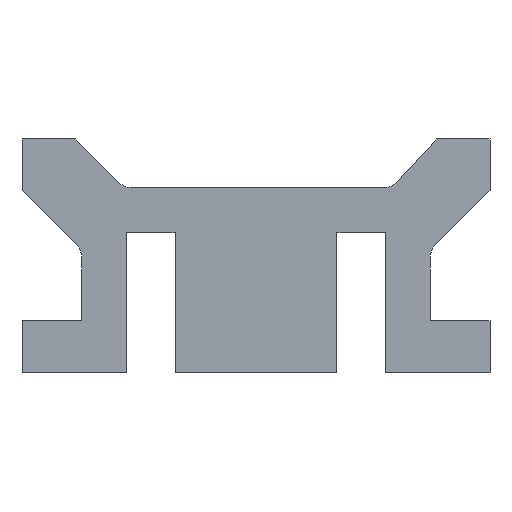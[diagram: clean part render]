
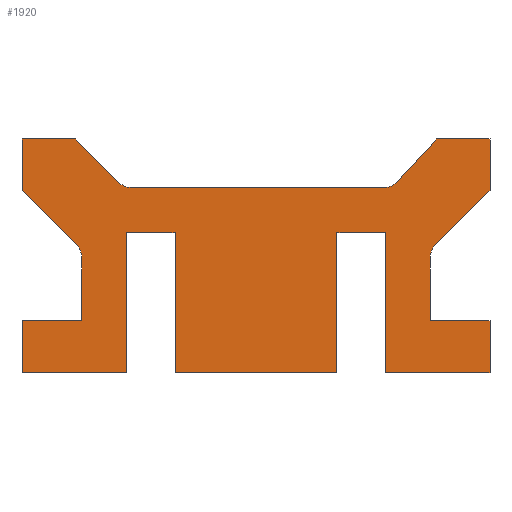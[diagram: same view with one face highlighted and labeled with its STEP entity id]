
A CAD part, front view. The second image highlights one B-rep face of the part: STEP entity #1920.
In plain terms, the highlighted planar face has unit normal (0, -1, 0).
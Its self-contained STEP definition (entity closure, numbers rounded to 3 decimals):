
#1=DIRECTION('',(-0.707,0.,0.707));
#2=VECTOR('',#1,6.525);
#3=CARTESIAN_POINT('',(-14.686,-400.,-4.614));
#4=LINE('',#3,#2);
#5=DIRECTION('',(-1.,0.,0.));
#6=VECTOR('',#5,26.896);
#7=CARTESIAN_POINT('',(13.624,-400.,-5.2));
#8=LINE('',#7,#6);
#9=DIRECTION('',(-0.678,0.,-0.735));
#10=VECTOR('',#9,6.201);
#11=CARTESIAN_POINT('',(19.3,-400.,0.));
#12=LINE('',#11,#10);
#13=DIRECTION('',(1.,0.,0.));
#14=VECTOR('',#13,5.7);
#15=CARTESIAN_POINT('',(19.3,-400.,0.));
#16=LINE('',#15,#14);
#17=DIRECTION('',(0.,0.,-1.));
#18=VECTOR('',#17,5.472);
#19=CARTESIAN_POINT('',(25.,-400.,0.));
#20=LINE('',#19,#18);
#21=DIRECTION('',(0.707,0.,0.707));
#22=VECTOR('',#21,8.223);
#23=CARTESIAN_POINT('',(19.186,-400.,-11.287));
#24=LINE('',#23,#22);
#25=DIRECTION('',(0.,0.,1.));
#26=VECTOR('',#25,6.699);
#27=CARTESIAN_POINT('',(18.6,-400.,-19.4));
#28=LINE('',#27,#26);
#29=DIRECTION('',(-1.,0.,0.));
#30=VECTOR('',#29,6.4);
#31=CARTESIAN_POINT('',(25.,-400.,-19.4));
#32=LINE('',#31,#30);
#33=DIRECTION('',(0.,0.,-1.));
#34=VECTOR('',#33,5.6);
#35=CARTESIAN_POINT('',(25.,-400.,-19.4));
#36=LINE('',#35,#34);
#37=DIRECTION('',(-1.,0.,0.));
#38=VECTOR('',#37,11.15);
#39=CARTESIAN_POINT('',(25.,-400.,-25.));
#40=LINE('',#39,#38);
#41=DIRECTION('',(0.,0.,1.));
#42=VECTOR('',#41,15.);
#43=CARTESIAN_POINT('',(13.85,-400.,-25.));
#44=LINE('',#43,#42);
#45=DIRECTION('',(1.,0.,0.));
#46=VECTOR('',#45,5.2);
#47=CARTESIAN_POINT('',(8.65,-400.,-10.));
#48=LINE('',#47,#46);
#49=DIRECTION('',(0.,0.,1.));
#50=VECTOR('',#49,15.);
#51=CARTESIAN_POINT('',(8.65,-400.,-25.));
#52=LINE('',#51,#50);
#53=DIRECTION('',(-1.,0.,0.));
#54=VECTOR('',#53,17.3);
#55=CARTESIAN_POINT('',(8.65,-400.,-25.));
#56=LINE('',#55,#54);
#57=DIRECTION('',(0.,0.,1.));
#58=VECTOR('',#57,15.);
#59=CARTESIAN_POINT('',(-8.65,-400.,-25.));
#60=LINE('',#59,#58);
#61=DIRECTION('',(1.,0.,0.));
#62=VECTOR('',#61,5.2);
#63=CARTESIAN_POINT('',(-13.85,-400.,-10.));
#64=LINE('',#63,#62);
#65=DIRECTION('',(0.,0.,1.));
#66=VECTOR('',#65,15.);
#67=CARTESIAN_POINT('',(-13.85,-400.,-25.));
#68=LINE('',#67,#66);
#69=DIRECTION('',(-1.,0.,0.));
#70=VECTOR('',#69,11.15);
#71=CARTESIAN_POINT('',(-13.85,-400.,-25.));
#72=LINE('',#71,#70);
#73=DIRECTION('',(0.,0.,1.));
#74=VECTOR('',#73,5.6);
#75=CARTESIAN_POINT('',(-25.,-400.,-25.));
#76=LINE('',#75,#74);
#77=DIRECTION('',(1.,0.,0.));
#78=VECTOR('',#77,6.4);
#79=CARTESIAN_POINT('',(-25.,-400.,-19.4));
#80=LINE('',#79,#78);
#81=DIRECTION('',(0.,0.,-1.));
#82=VECTOR('',#81,6.699);
#83=CARTESIAN_POINT('',(-18.6,-400.,-12.701));
#84=LINE('',#83,#82);
#85=DIRECTION('',(0.707,0.,-0.707));
#86=VECTOR('',#85,8.223);
#87=CARTESIAN_POINT('',(-25.,-400.,-5.472));
#88=LINE('',#87,#86);
#89=DIRECTION('',(0.,0.,1.));
#90=VECTOR('',#89,5.472);
#91=CARTESIAN_POINT('',(-25.,-400.,-5.472));
#92=LINE('',#91,#90);
#93=DIRECTION('',(1.,0.,0.));
#94=VECTOR('',#93,5.7);
#95=CARTESIAN_POINT('',(-25.,-400.,0.));
#96=LINE('',#95,#94);
#106=CARTESIAN_POINT('',(-13.272,-400.,-3.2));
#107=DIRECTION('',(0.,1.,0.));
#108=DIRECTION('',(0.,0.,-1.));
#109=AXIS2_PLACEMENT_3D('',#106,#107,#108);
#362=CARTESIAN_POINT('',(13.624,-400.,-3.2));
#363=DIRECTION('',(0.,1.,0.));
#364=DIRECTION('',(0.735,0.,-0.678));
#365=AXIS2_PLACEMENT_3D('',#362,#363,#364);
#404=CARTESIAN_POINT('',(-20.6,-400.,-12.701));
#405=DIRECTION('',(0.,1.,0.));
#406=DIRECTION('',(0.707,0.,0.707));
#407=AXIS2_PLACEMENT_3D('',#404,#405,#406);
#620=CARTESIAN_POINT('',(20.6,-400.,-12.701));
#621=DIRECTION('',(0.,1.,0.));
#622=DIRECTION('',(-1.,0.,0.));
#623=AXIS2_PLACEMENT_3D('',#620,#621,#622);
#1445=CARTESIAN_POINT('',(-25.,-400.,0.));
#1447=VERTEX_POINT('',#1445);
#1449=CARTESIAN_POINT('',(25.,-400.,0.));
#1451=VERTEX_POINT('',#1449);
#1453=CARTESIAN_POINT('',(25.,-400.,-25.));
#1455=VERTEX_POINT('',#1453);
#1457=CARTESIAN_POINT('',(-25.,-400.,-25.));
#1459=VERTEX_POINT('',#1457);
#1461=CARTESIAN_POINT('',(-13.85,-400.,-25.));
#1462=CARTESIAN_POINT('',(-13.85,-400.,-10.));
#1463=VERTEX_POINT('',#1461);
#1464=VERTEX_POINT('',#1462);
#1465=CARTESIAN_POINT('',(-8.65,-400.,-10.));
#1466=VERTEX_POINT('',#1465);
#1467=CARTESIAN_POINT('',(-8.65,-400.,-25.));
#1468=VERTEX_POINT('',#1467);
#1469=CARTESIAN_POINT('',(-25.,-400.,-19.4));
#1470=CARTESIAN_POINT('',(-18.6,-400.,-19.4));
#1471=VERTEX_POINT('',#1469);
#1472=VERTEX_POINT('',#1470);
#1473=CARTESIAN_POINT('',(8.65,-400.,-25.));
#1474=CARTESIAN_POINT('',(8.65,-400.,-10.));
#1475=VERTEX_POINT('',#1473);
#1476=VERTEX_POINT('',#1474);
#1477=CARTESIAN_POINT('',(13.85,-400.,-10.));
#1478=VERTEX_POINT('',#1477);
#1479=CARTESIAN_POINT('',(13.85,-400.,-25.));
#1480=VERTEX_POINT('',#1479);
#1481=CARTESIAN_POINT('',(25.,-400.,-19.4));
#1482=CARTESIAN_POINT('',(18.6,-400.,-19.4));
#1483=VERTEX_POINT('',#1481);
#1484=VERTEX_POINT('',#1482);
#1509=CARTESIAN_POINT('',(-19.3,-400.,0.));
#1511=VERTEX_POINT('',#1509);
#1513=CARTESIAN_POINT('',(19.3,-400.,0.));
#1515=VERTEX_POINT('',#1513);
#1517=CARTESIAN_POINT('',(25.,-400.,-5.472));
#1519=VERTEX_POINT('',#1517);
#1521=CARTESIAN_POINT('',(-25.,-400.,-5.472));
#1523=VERTEX_POINT('',#1521);
#1562=CARTESIAN_POINT('',(13.624,-400.,-5.2));
#1564=VERTEX_POINT('',#1562);
#1566=CARTESIAN_POINT('',(15.094,-400.,-4.557));
#1568=VERTEX_POINT('',#1566);
#1570=CARTESIAN_POINT('',(-14.686,-400.,-4.614));
#1572=VERTEX_POINT('',#1570);
#1574=CARTESIAN_POINT('',(-13.272,-400.,-5.2));
#1576=VERTEX_POINT('',#1574);
#1578=CARTESIAN_POINT('',(19.186,-400.,-11.287));
#1580=VERTEX_POINT('',#1578);
#1582=CARTESIAN_POINT('',(18.6,-400.,-12.701));
#1584=VERTEX_POINT('',#1582);
#1586=CARTESIAN_POINT('',(-18.6,-400.,-12.701));
#1588=VERTEX_POINT('',#1586);
#1590=CARTESIAN_POINT('',(-19.186,-400.,-11.287));
#1592=VERTEX_POINT('',#1590);
#1857=CARTESIAN_POINT('',(0.,-400.,0.));
#1858=DIRECTION('',(0.,1.,0.));
#1859=DIRECTION('',(1.,0.,0.));
#1860=AXIS2_PLACEMENT_3D('',#1857,#1858,#1859);
#1861=PLANE('',#1860);
#1863=ORIENTED_EDGE('',*,*,#1862,.F.);
#1865=ORIENTED_EDGE('',*,*,#1864,.F.);
#1867=ORIENTED_EDGE('',*,*,#1866,.F.);
#1869=ORIENTED_EDGE('',*,*,#1868,.F.);
#1871=ORIENTED_EDGE('',*,*,#1870,.F.);
#1873=ORIENTED_EDGE('',*,*,#1872,.T.);
#1875=ORIENTED_EDGE('',*,*,#1874,.T.);
#1877=ORIENTED_EDGE('',*,*,#1876,.F.);
#1879=ORIENTED_EDGE('',*,*,#1878,.F.);
#1881=ORIENTED_EDGE('',*,*,#1880,.F.);
#1883=ORIENTED_EDGE('',*,*,#1882,.F.);
#1885=ORIENTED_EDGE('',*,*,#1884,.T.);
#1887=ORIENTED_EDGE('',*,*,#1886,.T.);
#1889=ORIENTED_EDGE('',*,*,#1888,.T.);
#1891=ORIENTED_EDGE('',*,*,#1890,.F.);
#1893=ORIENTED_EDGE('',*,*,#1892,.F.);
#1895=ORIENTED_EDGE('',*,*,#1894,.T.);
#1897=ORIENTED_EDGE('',*,*,#1896,.T.);
#1899=ORIENTED_EDGE('',*,*,#1898,.F.);
#1901=ORIENTED_EDGE('',*,*,#1900,.F.);
#1903=ORIENTED_EDGE('',*,*,#1902,.T.);
#1905=ORIENTED_EDGE('',*,*,#1904,.T.);
#1907=ORIENTED_EDGE('',*,*,#1906,.T.);
#1909=ORIENTED_EDGE('',*,*,#1908,.F.);
#1911=ORIENTED_EDGE('',*,*,#1910,.F.);
#1913=ORIENTED_EDGE('',*,*,#1912,.F.);
#1915=ORIENTED_EDGE('',*,*,#1914,.T.);
#1917=ORIENTED_EDGE('',*,*,#1916,.T.);
#1918=EDGE_LOOP('',(#1863,#1865,#1867,#1869,#1871,#1873,#1875,#1877,#1879,#1881,
#1883,#1885,#1887,#1889,#1891,#1893,#1895,#1897,#1899,#1901,#1903,#1905,#1907,
#1909,#1911,#1913,#1915,#1917));
#1919=FACE_OUTER_BOUND('',#1918,.F.);
#1920=ADVANCED_FACE('',(#1919),#1861,.F.);
#110=CIRCLE('',#109,2.);
#366=CIRCLE('',#365,2.);
#408=CIRCLE('',#407,2.);
#624=CIRCLE('',#623,2.);
#1862=EDGE_CURVE('',#1572,#1511,#4,.T.);
#1864=EDGE_CURVE('',#1576,#1572,#110,.T.);
#1866=EDGE_CURVE('',#1564,#1576,#8,.T.);
#1868=EDGE_CURVE('',#1568,#1564,#366,.T.);
#1870=EDGE_CURVE('',#1515,#1568,#12,.T.);
#1872=EDGE_CURVE('',#1515,#1451,#16,.T.);
#1874=EDGE_CURVE('',#1451,#1519,#20,.T.);
#1876=EDGE_CURVE('',#1580,#1519,#24,.T.);
#1878=EDGE_CURVE('',#1584,#1580,#624,.T.);
#1880=EDGE_CURVE('',#1484,#1584,#28,.T.);
#1882=EDGE_CURVE('',#1483,#1484,#32,.T.);
#1884=EDGE_CURVE('',#1483,#1455,#36,.T.);
#1886=EDGE_CURVE('',#1455,#1480,#40,.T.);
#1888=EDGE_CURVE('',#1480,#1478,#44,.T.);
#1890=EDGE_CURVE('',#1476,#1478,#48,.T.);
#1892=EDGE_CURVE('',#1475,#1476,#52,.T.);
#1894=EDGE_CURVE('',#1475,#1468,#56,.T.);
#1896=EDGE_CURVE('',#1468,#1466,#60,.T.);
#1898=EDGE_CURVE('',#1464,#1466,#64,.T.);
#1900=EDGE_CURVE('',#1463,#1464,#68,.T.);
#1902=EDGE_CURVE('',#1463,#1459,#72,.T.);
#1904=EDGE_CURVE('',#1459,#1471,#76,.T.);
#1906=EDGE_CURVE('',#1471,#1472,#80,.T.);
#1908=EDGE_CURVE('',#1588,#1472,#84,.T.);
#1910=EDGE_CURVE('',#1592,#1588,#408,.T.);
#1912=EDGE_CURVE('',#1523,#1592,#88,.T.);
#1914=EDGE_CURVE('',#1523,#1447,#92,.T.);
#1916=EDGE_CURVE('',#1447,#1511,#96,.T.);
